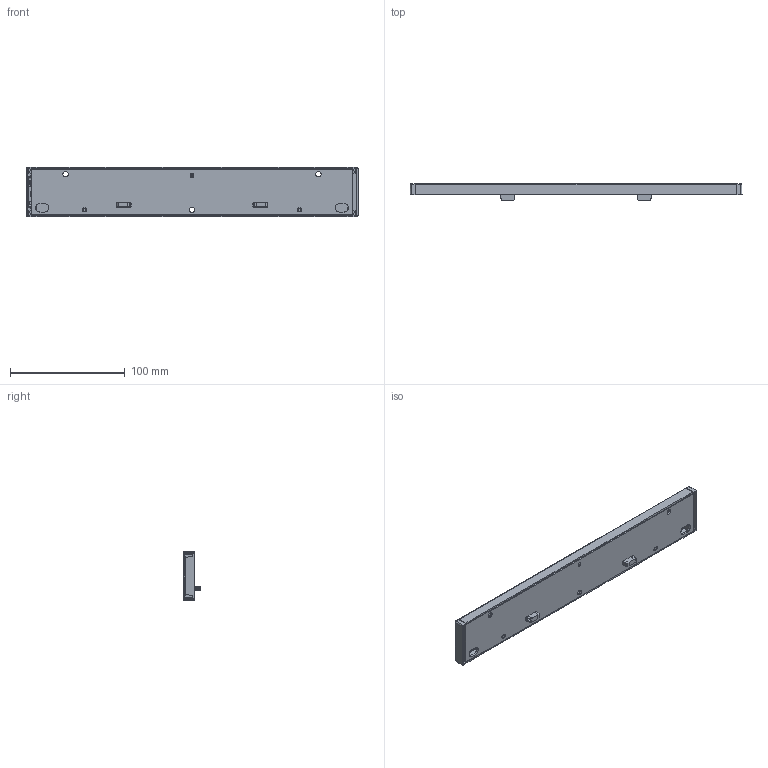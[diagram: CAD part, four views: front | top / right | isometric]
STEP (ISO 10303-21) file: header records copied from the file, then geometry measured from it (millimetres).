
FILE_DESCRIPTION (( 'STEP AP214' ), '1' );
FILE_NAME ('WU-M-480-S-BC with Optic.STEP', '2018-01-11T11:16:35', ( 'Admin' ), ( 'Microsoft' ), 'SwSTEP 2.0', 'SolidWorks 2017', '' );
FILE_SCHEMA (( 'AUTOMOTIVE_DESIGN' ));
Length unit declared in the file: millimetre
Products named in the file (45): STW8C2PB-E1; VSO-Logo-4mm; Optik 555437 mit 2 Endkappen 555482; CE-Zeichen-4mm; Built-In LED Module-3mm; WU-M-480-S; 2070_461_998_406; WU-M-480-S-BC with Optic
Assembly tree (37 placements, depth 2):
  STW8C2PB-E1
  STW8C2PB-E1
  STW8C2PB-E1
  STW8C2PB-E1
  STW8C2PB-E1
Bounding box: 288.81 x 14.64 x 43.01 mm (x, y, z)
Volume: 17814.6 mm3; surface area: 66659.7 mm2
Topology: 42 solids, 46 shells, 5359 faces, 14025 edges, 9214 vertices
Faces by surface type: plane 3469, cylinder 1065, bspline 665, cone 100, torus 60
Entity records: 163651 total; most frequent: CARTESIAN_POINT 55165, ORIENTED_EDGE 16726, DIRECTION 13305, EDGE_CURVE 8365, LINE 5747, VECTOR 5747, VERTEX_POINT 5493, AXIS2_PLACEMENT_3D 3779
